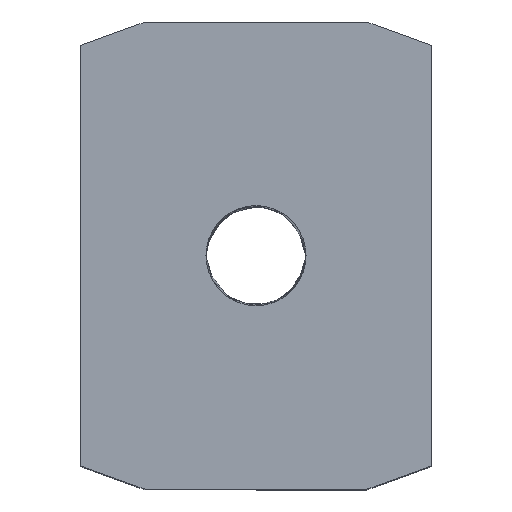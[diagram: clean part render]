
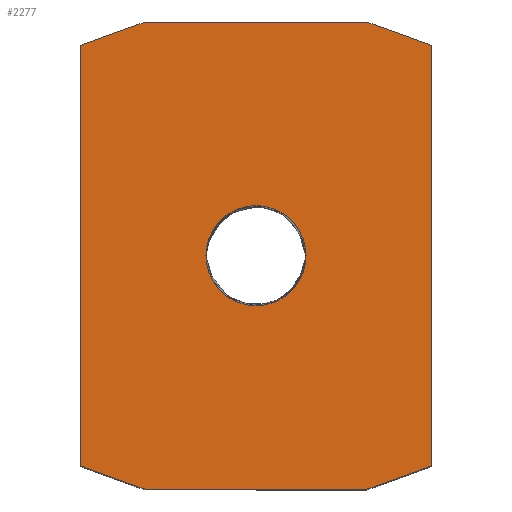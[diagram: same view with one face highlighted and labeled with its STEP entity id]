
A CAD part, top view. The second image highlights one B-rep face of the part: STEP entity #2277.
In plain terms, the highlighted planar face has unit normal (0, 0, 1).
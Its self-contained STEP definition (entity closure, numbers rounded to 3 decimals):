
#72=CARTESIAN_POINT('',(4.283,0.0,35.0));
#73=VERTEX_POINT('',#72);
#107=CARTESIAN_POINT('',(-4.283,0.,35.0));
#108=VERTEX_POINT('',#107);
#115=CARTESIAN_POINT('',(0.0,0.0,35.0));
#116=DIRECTION('',(0.0,0.0,-1.0));
#117=DIRECTION('',(1.0,0.0,0.0));
#118=AXIS2_PLACEMENT_3D('',#115,#116,#117);
#119=CIRCLE('',#118,4.283);
#120=EDGE_CURVE('',#73,#108,#119,.T.);
#1682=CARTESIAN_POINT('',(-15.0,-17.998,35.0));
#1683=VERTEX_POINT('',#1682);
#1684=CARTESIAN_POINT('',(-15.0,17.998,35.0));
#1685=VERTEX_POINT('',#1684);
#1686=CARTESIAN_POINT('',(-15.0,-17.998,35.0));
#1687=DIRECTION('',(0.0,1.0,0.0));
#1688=VECTOR('',#1687,35.996);
#1689=LINE('',#1686,#1688);
#1690=EDGE_CURVE('',#1683,#1685,#1689,.T.);
#2017=CARTESIAN_POINT('',(0.0,0.0,35.0));
#2018=DIRECTION('',(0.0,0.0,-1.0));
#2019=DIRECTION('',(1.0,0.0,0.0));
#2020=AXIS2_PLACEMENT_3D('',#2017,#2018,#2019);
#2021=CIRCLE('',#2020,4.283);
#2022=EDGE_CURVE('',#108,#73,#2021,.T.);
#2035=CARTESIAN_POINT('',(9.5,20.0,35.0));
#2036=VERTEX_POINT('',#2035);
#2037=CARTESIAN_POINT('',(15.0,17.998,35.0));
#2038=VERTEX_POINT('',#2037);
#2039=CARTESIAN_POINT('',(9.5,20.0,35.0));
#2040=DIRECTION('',(0.94,-0.342,0.0));
#2041=VECTOR('',#2040,5.853);
#2042=LINE('',#2039,#2041);
#2043=EDGE_CURVE('',#2036,#2038,#2042,.T.);
#2075=CARTESIAN_POINT('',(15.0,-17.998,35.0));
#2076=VERTEX_POINT('',#2075);
#2077=CARTESIAN_POINT('',(15.0,17.998,35.0));
#2078=DIRECTION('',(0.0,-1.0,0.0));
#2079=VECTOR('',#2078,35.996);
#2080=LINE('',#2077,#2079);
#2081=EDGE_CURVE('',#2038,#2076,#2080,.T.);
#2126=CARTESIAN_POINT('',(9.5,-20.0,35.0));
#2127=VERTEX_POINT('',#2126);
#2128=CARTESIAN_POINT('',(15.0,-17.998,35.0));
#2129=DIRECTION('',(-0.94,-0.342,0.0));
#2130=VECTOR('',#2129,5.853);
#2131=LINE('',#2128,#2130);
#2132=EDGE_CURVE('',#2076,#2127,#2131,.T.);
#2157=CARTESIAN_POINT('',(-9.5,-20.,35.0));
#2158=VERTEX_POINT('',#2157);
#2159=CARTESIAN_POINT('',(9.5,-20.0,35.0));
#2160=DIRECTION('',(-1.0,0.0,0.0));
#2161=VECTOR('',#2160,19.0);
#2162=LINE('',#2159,#2161);
#2163=EDGE_CURVE('',#2127,#2158,#2162,.T.);
#2188=CARTESIAN_POINT('',(-9.5,-20.,35.0));
#2189=DIRECTION('',(-0.94,0.342,0.0));
#2190=VECTOR('',#2189,5.853);
#2191=LINE('',#2188,#2190);
#2192=EDGE_CURVE('',#2158,#1683,#2191,.T.);
#2210=CARTESIAN_POINT('',(-9.5,20.0,35.0));
#2211=VERTEX_POINT('',#2210);
#2212=CARTESIAN_POINT('',(-15.0,17.998,35.0));
#2213=DIRECTION('',(0.94,0.342,0.0));
#2214=VECTOR('',#2213,5.853);
#2215=LINE('',#2212,#2214);
#2216=EDGE_CURVE('',#1685,#2211,#2215,.T.);
#2241=CARTESIAN_POINT('',(-9.5,20.0,35.0));
#2242=DIRECTION('',(1.0,0.0,0.0));
#2243=VECTOR('',#2242,19.0);
#2244=LINE('',#2241,#2243);
#2245=EDGE_CURVE('',#2211,#2036,#2244,.T.);
#2258=CARTESIAN_POINT('',(0.,0.,35.0));
#2259=DIRECTION('',(0.0,0.0,1.0));
#2260=DIRECTION('',(1.0,0.0,0.0));
#2261=AXIS2_PLACEMENT_3D('',#2258,#2259,#2260);
#2262=PLANE('',#2261);
#2263=ORIENTED_EDGE('',*,*,#2043,.F.);
#2264=ORIENTED_EDGE('',*,*,#2245,.F.);
#2265=ORIENTED_EDGE('',*,*,#2216,.F.);
#2266=ORIENTED_EDGE('',*,*,#1690,.F.);
#2267=ORIENTED_EDGE('',*,*,#2192,.F.);
#2268=ORIENTED_EDGE('',*,*,#2163,.F.);
#2269=ORIENTED_EDGE('',*,*,#2132,.F.);
#2270=ORIENTED_EDGE('',*,*,#2081,.F.);
#2271=EDGE_LOOP('',(#2263,#2264,#2265,#2266,#2267,#2268,#2269,#2270));
#2272=FACE_OUTER_BOUND('',#2271,.T.);
#2273=ORIENTED_EDGE('',*,*,#120,.T.);
#2274=ORIENTED_EDGE('',*,*,#2022,.T.);
#2275=EDGE_LOOP('',(#2273,#2274));
#2276=FACE_BOUND('',#2275,.T.);
#2277=ADVANCED_FACE('',(#2272,#2276),#2262,.T.);
